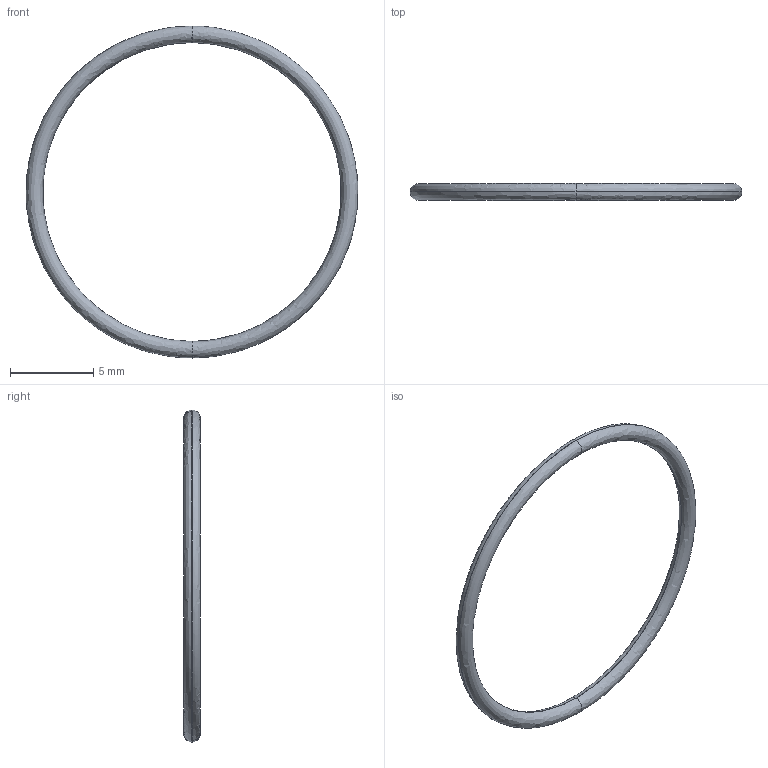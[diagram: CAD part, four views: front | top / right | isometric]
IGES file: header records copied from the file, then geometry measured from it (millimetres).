
Start section: SolidWorks IGES file using analytic representation for surfaces
Global section: file name: K:\BE\Fichiers IGES\MMC_JBFS01.IGS; native system: SolidWorks 2013; preprocessor: SolidWorks 2013; author: lla; date: 140430.094208; units: millimetre
Bounding box: 19.97 x 1 x 20 mm (x, y, z)
Surface area: 187.7 mm2 (no closed solid volume)
Topology: 0 solids, 0 shells, 4 faces, 16 edges, 16 vertices
Faces by surface type: bspline 4
